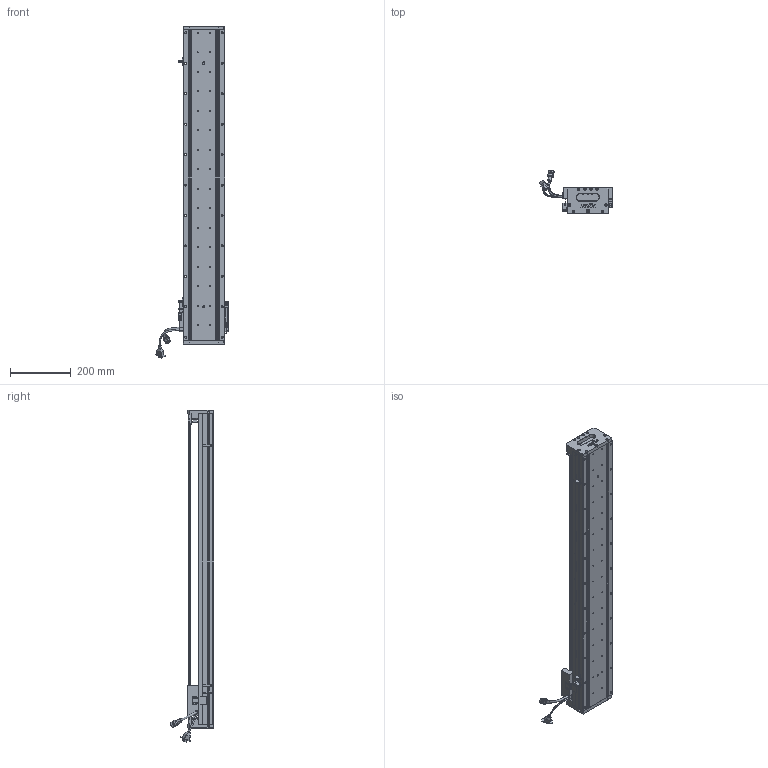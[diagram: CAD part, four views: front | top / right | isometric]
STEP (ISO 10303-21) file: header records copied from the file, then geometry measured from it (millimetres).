
FILE_DESCRIPTION (( 'STEP AP203' ), '1' );
FILE_NAME ('Z1-RY140D-1-L500-B-K.SLDASM_0850.step', '2021-05-17T07:31:09', ( '盈信电脑' ), ( '东莞市道滘镇水果街19号' ), 'SwSTEP 2.0', 'SolidWorks 2016', '' );
FILE_SCHEMA (( 'CONFIG_CONTROL_DESIGN' ));
Length unit declared in the file: millimetre
Products named in the file (36): HOLDER0; SCREW-M1.6-2; HARNESS-Part-1; SEAL-Part-1; PSLH080_PSLF2; SHIELDPLATE; SCREW-M1.7; 榋妏寠巭燃_暯_M2_2; SCREW-M1.7-1; LABEL; SCALE-Part-1; SCREW-M1.6-1; 080黍杅芛假蚾釱21遴; SCALE-Part-2; 140雄赽晤鎢ん堤盄; 140蚥薯蝶輸; 覜茼ん672; Z-RY140感应器672光电感应片; Z1-RY140-L500直线电机模组底座_0850; Z-140詩湍傷裔啣; PBU_SHEET; SCREW-M1.6-3; SEAL; COVER; Z1-RY140-L500詩湍100mm遵_0850; Z-RY140詩湍奻揤裔; Z1-RY140D-1-L500-B-K.SLDASM_0850; HARNESS-Part-2; SCALE; SCREW-M1.6; HARNESS; LABEL-Part-1; 140-Z-臏賑輸盄裔(21遴); COVER-Part-1; Z1-RY140圉猾敕臏賑輸(21遴); Z-RY140詩湍狟揤裔
Assembly tree (41 placements, depth 4):
  Z1-RY140D-1-L500-B-K.SLDASM_0850
    Z1-RY140-L500直线电机模组底座_0850
    Z-RY140感应器672光电感应片
    Z1-RY140圉猾敕臏賑輸(21遴)
    覜茼ん672  x3
    Z1-RY140-L500詩湍100mm遵_0850
    PSLH080_PSLF2
      SCALE
        SCALE-Part-1
        SCALE-Part-2
      HARNESS
        HARNESS-Part-1
        HARNESS-Part-2
      LABEL
        LABEL-Part-1
      COVER
        COVER-Part-1
      SEAL
        SEAL-Part-1
      榋妏寠巭燃_暯_M2_2
      SHIELDPLATE
      SCREW-M1.7
      SCREW-M1.7-1
      PBU_SHEET
      SCREW-M1.6
      SCREW-M1.6-1
      SCREW-M1.6-2
      SCREW-M1.6-3
      HOLDER0
    080黍杅芛假蚾釱21遴
    140-Z-臏賑輸盄裔(21遴)
    Z-140詩湍傷裔啣  x2
    Z-RY140詩湍狟揤裔  x2
    Z-RY140詩湍奻揤裔  x2
    140蚥薯蝶輸  x2
    140雄赽晤鎢ん堤盄
Bounding box: 239.84 x 143.88 x 1090.88 mm (x, y, z)
Volume: 3685006.5 mm3; surface area: 988964.9 mm2
Topology: 36 solids, 36 shells, 2924 faces, 7746 edges, 4917 vertices
Faces by surface type: cylinder 1388, plane 1148, cone 266, torus 69, bspline 53
Entity records: 86386 total; most frequent: CARTESIAN_POINT 22363, ORIENTED_EDGE 12652, DIRECTION 12322, EDGE_CURVE 6326, AXIS2_PLACEMENT_3D 4508, VERTEX_POINT 4085, VECTOR 3306, LINE 3306
